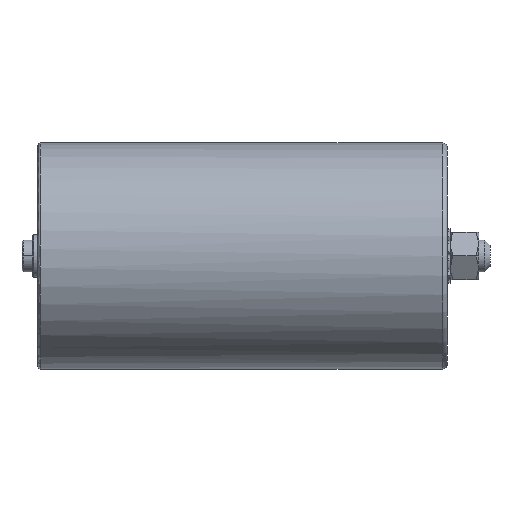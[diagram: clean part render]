
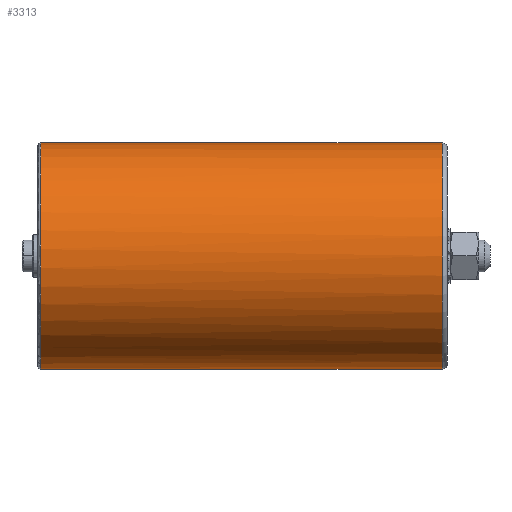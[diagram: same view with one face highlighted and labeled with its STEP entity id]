
A CAD part, left-side view. The second image highlights one B-rep face of the part: STEP entity #3313.
In plain terms, the highlighted cylindrical face has radius 42.5 mm (diameter 85 mm), a partial arc.
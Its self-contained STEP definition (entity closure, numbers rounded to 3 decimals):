
#10 = EDGE_CURVE ( 'NONE', #872, #85, #1863, .T. ) ;
#40 = DIRECTION ( 'NONE',  ( 0., -1., 0. ) ) ;
#49 = EDGE_LOOP ( 'NONE', ( #3852, #3545, #4047, #1358, #2233 ) ) ;
#71 = DIRECTION ( 'NONE',  ( 0.585, 0., 0.811 ) ) ;
#85 = VERTEX_POINT ( 'NONE', #2622 ) ;
#199 = CARTESIAN_POINT ( 'NONE',  ( 0., 2., 0. ) ) ;
#287 = DIRECTION ( 'NONE',  ( 0., -1., 0. ) ) ;
#421 = AXIS2_PLACEMENT_3D ( 'NONE', #3957, #1080, #71 ) ;
#459 = EDGE_CURVE ( 'NONE', #872, #3123, #3994, .T. ) ;
#517 = VECTOR ( 'NONE', #287, 1000. ) ;
#850 = DIRECTION ( 'NONE',  ( 0., -1., 0. ) ) ;
#872 = VERTEX_POINT ( 'NONE', #3999 ) ;
#943 = AXIS2_PLACEMENT_3D ( 'NONE', #1419, #1992, #3988 ) ;
#948 = CARTESIAN_POINT ( 'NONE',  ( 0., 0., -42.5 ) ) ;
#1080 = DIRECTION ( 'NONE',  ( 0., -1., 0. ) ) ;
#1166 = AXIS2_PLACEMENT_3D ( 'NONE', #199, #1757, #1835 ) ;
#1358 = ORIENTED_EDGE ( 'NONE', *, *, #2456, .T. ) ;
#1419 = CARTESIAN_POINT ( 'NONE',  ( 0., 0., 0. ) ) ;
#1462 = CARTESIAN_POINT ( 'NONE',  ( -24.861, 153., -34.47 ) ) ;
#1606 = EDGE_CURVE ( 'NONE', #3854, #85, #2432, .T. ) ;
#1639 = LINE ( 'NONE', #948, #4089 ) ;
#1656 = CYLINDRICAL_SURFACE ( 'NONE', #943, 42.5 ) ;
#1699 = FACE_OUTER_BOUND ( 'NONE', #49, .T. ) ;
#1757 = DIRECTION ( 'NONE',  ( 0., 1., 0. ) ) ;
#1767 = DIRECTION ( 'NONE',  ( 0.585, 0., 0.811 ) ) ;
#1835 = DIRECTION ( 'NONE',  ( 0., 0., -1. ) ) ;
#1837 = AXIS2_PLACEMENT_3D ( 'NONE', #4005, #850, #1767 ) ;
#1863 = LINE ( 'NONE', #3143, #517 ) ;
#1992 = DIRECTION ( 'NONE',  ( 0., -1., 0. ) ) ;
#2233 = ORIENTED_EDGE ( 'NONE', *, *, #1606, .T. ) ;
#2432 = CIRCLE ( 'NONE', #1166, 42.5 ) ;
#2456 = EDGE_CURVE ( 'NONE', #2562, #3854, #1639, .T. ) ;
#2562 = VERTEX_POINT ( 'NONE', #3235 ) ;
#2622 = CARTESIAN_POINT ( 'NONE',  ( 0., 2., 42.5 ) ) ;
#2687 = CIRCLE ( 'NONE', #421, 42.5 ) ;
#3123 = VERTEX_POINT ( 'NONE', #1462 ) ;
#3143 = CARTESIAN_POINT ( 'NONE',  ( 0., 0., 42.5 ) ) ;
#3235 = CARTESIAN_POINT ( 'NONE',  ( 0., 153., -42.5 ) ) ;
#3313 = ADVANCED_FACE ( 'NONE', ( #1699 ), #1656, .T. ) ;
#3519 = EDGE_CURVE ( 'NONE', #3123, #2562, #2687, .T. ) ;
#3545 = ORIENTED_EDGE ( 'NONE', *, *, #459, .T. ) ;
#3852 = ORIENTED_EDGE ( 'NONE', *, *, #10, .F. ) ;
#3854 = VERTEX_POINT ( 'NONE', #4140 ) ;
#3957 = CARTESIAN_POINT ( 'NONE',  ( 0., 153., 0. ) ) ;
#3988 = DIRECTION ( 'NONE',  ( 0., 0., -1. ) ) ;
#3994 = CIRCLE ( 'NONE', #1837, 42.5 ) ;
#3999 = CARTESIAN_POINT ( 'NONE',  ( 0., 153., 42.5 ) ) ;
#4005 = CARTESIAN_POINT ( 'NONE',  ( 0., 153., 0. ) ) ;
#4047 = ORIENTED_EDGE ( 'NONE', *, *, #3519, .T. ) ;
#4089 = VECTOR ( 'NONE', #40, 1000. ) ;
#4140 = CARTESIAN_POINT ( 'NONE',  ( 0., 2., -42.5 ) ) ;
